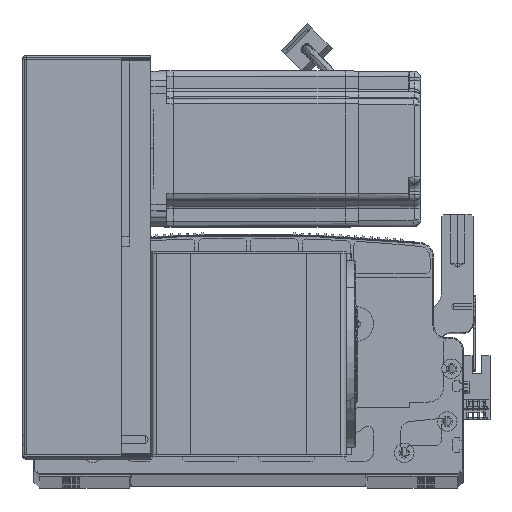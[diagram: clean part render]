
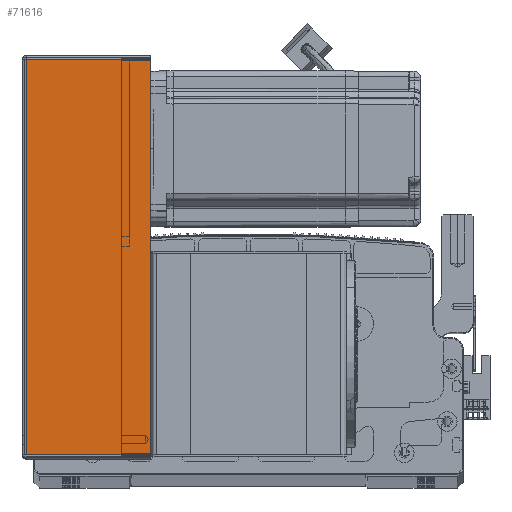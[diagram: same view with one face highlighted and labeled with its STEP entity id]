
A CAD part, top view. The second image highlights one B-rep face of the part: STEP entity #71616.
In plain terms, the highlighted planar face has unit normal (0, 0, 1) as drawn and (0, 1, 0) by its records, which use the part's own axes.
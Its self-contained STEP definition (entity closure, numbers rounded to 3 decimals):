
#1709 = VECTOR ( 'NONE', #77344, 1000. ) ;
#5201 = VERTEX_POINT ( 'NONE', #43908 ) ;
#5792 = EDGE_CURVE ( 'NONE', #87356, #8494, #30177, .T. ) ;
#8494 = VERTEX_POINT ( 'NONE', #40751 ) ;
#8586 = VECTOR ( 'NONE', #20568, 1000. ) ;
#18072 = PLANE ( 'NONE',  #69430 ) ;
#20568 = DIRECTION ( 'NONE',  ( 0., 0., -1. ) ) ;
#22561 = CARTESIAN_POINT ( 'NONE',  ( 0., 107.5, -0.707 ) ) ;
#24919 = CARTESIAN_POINT ( 'NONE',  ( 0.737, 107.5, -203.293 ) ) ;
#25695 = DIRECTION ( 'NONE',  ( 0., -1., 0. ) ) ;
#27476 = EDGE_CURVE ( 'NONE', #44672, #5201, #37608, .T. ) ;
#30177 = LINE ( 'NONE', #78491, #81924 ) ;
#35216 = FACE_OUTER_BOUND ( 'NONE', #86496, .T. ) ;
#37608 = LINE ( 'NONE', #22561, #1709 ) ;
#40751 = CARTESIAN_POINT ( 'NONE',  ( 64.5, 107.5, -203.293 ) ) ;
#43908 = CARTESIAN_POINT ( 'NONE',  ( 64.5, 107.5, -0.707 ) ) ;
#44672 = VERTEX_POINT ( 'NONE', #51292 ) ;
#44713 = CARTESIAN_POINT ( 'NONE',  ( 0.737, 107.5, 0. ) ) ;
#49233 = ORIENTED_EDGE ( 'NONE', *, *, #27476, .T. ) ;
#50030 = CARTESIAN_POINT ( 'NONE',  ( 64.5, 107.5, -204. ) ) ;
#51292 = CARTESIAN_POINT ( 'NONE',  ( 0.737, 107.5, -0.707 ) ) ;
#56056 = EDGE_CURVE ( 'NONE', #5201, #8494, #77039, .T. ) ;
#56101 = VECTOR ( 'NONE', #57674, 1000. ) ;
#57674 = DIRECTION ( 'NONE',  ( 0., 0., -1. ) ) ;
#59520 = ORIENTED_EDGE ( 'NONE', *, *, #56056, .T. ) ;
#59595 = EDGE_CURVE ( 'NONE', #44672, #87356, #96319, .T. ) ;
#61384 = ORIENTED_EDGE ( 'NONE', *, *, #59595, .F. ) ;
#69430 = AXIS2_PLACEMENT_3D ( 'NONE', #73193, #25695, #73867 ) ;
#71616 = ADVANCED_FACE ( 'NONE', ( #35216 ), #18072, .F. ) ;
#73193 = CARTESIAN_POINT ( 'NONE',  ( 0., 107.5, 0. ) ) ;
#73867 = DIRECTION ( 'NONE',  ( 1., 0., 0. ) ) ;
#77039 = LINE ( 'NONE', #50030, #56101 ) ;
#77344 = DIRECTION ( 'NONE',  ( 1., 0., 0. ) ) ;
#78491 = CARTESIAN_POINT ( 'NONE',  ( 0., 107.5, -203.293 ) ) ;
#81924 = VECTOR ( 'NONE', #85443, 1000. ) ;
#85443 = DIRECTION ( 'NONE',  ( 1., 0., 0. ) ) ;
#86496 = EDGE_LOOP ( 'NONE', ( #61384, #49233, #59520, #88008 ) ) ;
#87356 = VERTEX_POINT ( 'NONE', #24919 ) ;
#88008 = ORIENTED_EDGE ( 'NONE', *, *, #5792, .F. ) ;
#96319 = LINE ( 'NONE', #44713, #8586 ) ;
